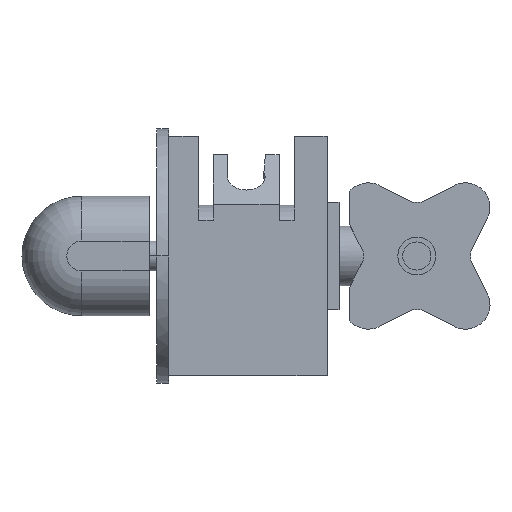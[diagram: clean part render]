
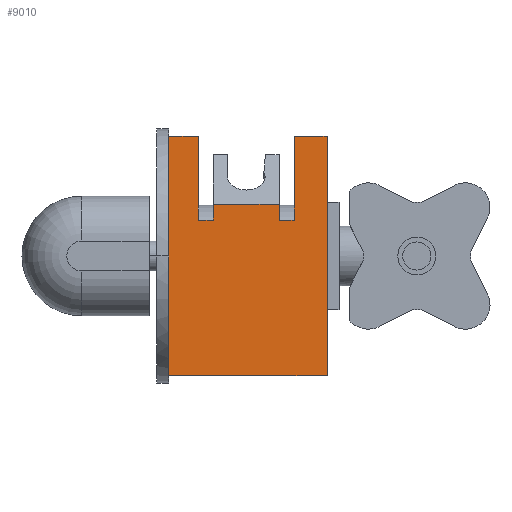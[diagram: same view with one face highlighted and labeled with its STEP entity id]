
A CAD part, left-side view. The second image highlights one B-rep face of the part: STEP entity #9010.
In plain terms, the highlighted planar face has unit normal (-1, 0, 0) as drawn and (1, 0, 0) by its records, which use the part's own axes.
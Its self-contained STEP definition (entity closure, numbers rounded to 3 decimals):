
#3090=CARTESIAN_POINT('',(40.,-27.5,40.));
#3100=DIRECTION('',(0.,1.,0.));
#3110=VECTOR('',#3100,1000.);
#3120=LINE('',#3090,#3110);
#3130=CARTESIAN_POINT('',(40.,14.5,40.));
#3140=VERTEX_POINT('',#3130);
#3150=CARTESIAN_POINT('',(40.,25.5,40.));
#3160=VERTEX_POINT('',#3150);
#3170=EDGE_CURVE('',#3140,#3160,#3120,.T.);
#4700=CARTESIAN_POINT('',(40.,14.5,12.));
#4710=VERTEX_POINT('',#4700);
#4740=CARTESIAN_POINT('',(40.,-17.5,12.));
#4750=DIRECTION('',(0.,-1.,0.));
#4760=VECTOR('',#4750,1000.);
#4770=LINE('',#4740,#4760);
#4780=CARTESIAN_POINT('',(40.,9.5,12.));
#4790=VERTEX_POINT('',#4780);
#4800=EDGE_CURVE('',#4710,#4790,#4770,.T.);
#5020=CARTESIAN_POINT('',(40.,-12.5,17.29));
#5030=VERTEX_POINT('',#5020);
#5290=CARTESIAN_POINT('',(40.,9.5,17.29));
#5300=VERTEX_POINT('',#5290);
#5330=CARTESIAN_POINT('',(40.,0.,17.29));
#5340=DIRECTION('',(0.,-1.,0.));
#5350=VECTOR('',#5340,1.);
#5360=LINE('',#5330,#5350);
#5370=EDGE_CURVE('',#5300,#5030,#5360,.T.);
#6800=CARTESIAN_POINT('',(40.,9.5,38.101));
#6810=DIRECTION('',(0.,0.,1.));
#6820=VECTOR('',#6810,1000.);
#6830=LINE('',#6800,#6820);
#6840=EDGE_CURVE('',#4790,#5300,#6830,.T.);
#7320=CARTESIAN_POINT('',(40.,25.5,-40.));
#7330=VERTEX_POINT('',#7320);
#7360=CARTESIAN_POINT('',(40.,25.5,0.));
#7370=DIRECTION('',(0.,0.,-1.));
#7380=VECTOR('',#7370,1.);
#7390=LINE('',#7360,#7380);
#7400=EDGE_CURVE('',#3160,#7330,#7390,.T.);
#8250=CARTESIAN_POINT('',(40.,-27.5,-40.));
#8260=DIRECTION('',(1.,0.,0.));
#8270=DIRECTION('',(0.,-1.,0.));
#8280=AXIS2_PLACEMENT_3D('',#8250,#8260,#8270);
#8290=PLANE('',#8280);
#8300=CARTESIAN_POINT('',(40.,-27.5,-40.));
#8310=DIRECTION('',(0.,1.,0.));
#8320=VECTOR('',#8310,1000.);
#8330=LINE('',#8300,#8320);
#8340=CARTESIAN_POINT('',(40.,-27.5,-40.));
#8350=VERTEX_POINT('',#8340);
#8360=EDGE_CURVE('',#8350,#7330,#8330,.T.);
#8370=ORIENTED_EDGE('',*,*,#8360,.T.);
#8380=CARTESIAN_POINT('',(40.,-27.5,0.));
#8390=DIRECTION('',(0.,0.,1.));
#8400=VECTOR('',#8390,1.);
#8410=LINE('',#8380,#8400);
#8420=CARTESIAN_POINT('',(40.,-27.5,-14.361));
#8430=VERTEX_POINT('',#8420);
#8440=EDGE_CURVE('',#8350,#8430,#8410,.T.);
#8450=ORIENTED_EDGE('',*,*,#8440,.F.);
#8460=CARTESIAN_POINT('',(40.,-27.5,0.));
#8470=DIRECTION('',(0.,0.,1.));
#8480=VECTOR('',#8470,1.);
#8490=LINE('',#8460,#8480);
#8500=CARTESIAN_POINT('',(40.,-27.5,14.361));
#8510=VERTEX_POINT('',#8500);
#8520=EDGE_CURVE('',#8430,#8510,#8490,.T.);
#8530=ORIENTED_EDGE('',*,*,#8520,.F.);
#8540=CARTESIAN_POINT('',(40.,-27.5,40.));
#8550=VERTEX_POINT('',#8540);
#8560=EDGE_CURVE('',#8510,#8550,#8410,.T.);
#8570=ORIENTED_EDGE('',*,*,#8560,.F.);
#8580=CARTESIAN_POINT('',(40.,-27.5,40.));
#8590=DIRECTION('',(0.,1.,0.));
#8600=VECTOR('',#8590,1000.);
#8610=LINE('',#8580,#8600);
#8620=CARTESIAN_POINT('',(40.,-17.5,40.));
#8630=VERTEX_POINT('',#8620);
#8640=EDGE_CURVE('',#8550,#8630,#8610,.T.);
#8650=ORIENTED_EDGE('',*,*,#8640,.F.);
#8660=CARTESIAN_POINT('',(40.,-17.5,12.));
#8670=DIRECTION('',(0.,0.,1.));
#8680=VECTOR('',#8670,1000.);
#8690=LINE('',#8660,#8680);
#8700=CARTESIAN_POINT('',(40.,-17.5,12.));
#8710=VERTEX_POINT('',#8700);
#8720=EDGE_CURVE('',#8710,#8630,#8690,.T.);
#8730=ORIENTED_EDGE('',*,*,#8720,.T.);
#8740=CARTESIAN_POINT('',(40.,-17.5,12.));
#8750=DIRECTION('',(0.,-1.,0.));
#8760=VECTOR('',#8750,1000.);
#8770=LINE('',#8740,#8760);
#8780=CARTESIAN_POINT('',(40.,-12.5,12.));
#8790=VERTEX_POINT('',#8780);
#8800=EDGE_CURVE('',#8790,#8710,#8770,.T.);
#8810=ORIENTED_EDGE('',*,*,#8800,.T.);
#8820=CARTESIAN_POINT('',(40.,-12.5,14.));
#8830=DIRECTION('',(0.,0.,-1.));
#8840=VECTOR('',#8830,1000.);
#8850=LINE('',#8820,#8840);
#8860=EDGE_CURVE('',#5030,#8790,#8850,.T.);
#8870=ORIENTED_EDGE('',*,*,#8860,.T.);
#8880=ORIENTED_EDGE('',*,*,#5370,.T.);
#8890=ORIENTED_EDGE('',*,*,#6840,.T.);
#8900=ORIENTED_EDGE('',*,*,#4800,.T.);
#8910=CARTESIAN_POINT('',(40.,14.5,12.));
#8920=DIRECTION('',(0.,0.,-1.));
#8930=VECTOR('',#8920,1000.);
#8940=LINE('',#8910,#8930);
#8950=EDGE_CURVE('',#3140,#4710,#8940,.T.);
#8960=ORIENTED_EDGE('',*,*,#8950,.T.);
#8970=ORIENTED_EDGE('',*,*,#3170,.F.);
#8980=ORIENTED_EDGE('',*,*,#7400,.F.);
#8990=EDGE_LOOP('',(#8980,#8970,#8960,#8900,#8890,#8880,#8870,#8810,
#8730,#8650,#8570,#8530,#8450,#8370));
#9000=FACE_OUTER_BOUND('',#8990,.T.);
#9010=ADVANCED_FACE('',(#9000),#8290,.T.);
